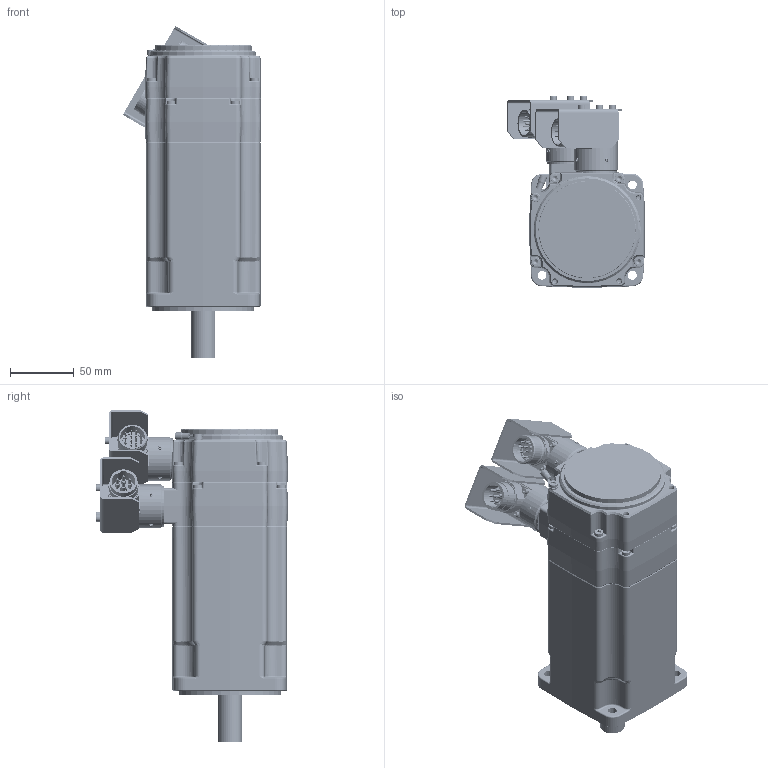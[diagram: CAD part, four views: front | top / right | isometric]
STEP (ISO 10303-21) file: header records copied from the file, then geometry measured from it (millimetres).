
FILE_DESCRIPTION((''),'2;1');
FILE_NAME('EY430EAR7010_ASM','2016-10-19T',('pf73167'),(''),'PRO/ENGINEER BY PARAMETRIC TECHNOLOGY CORPORATION, 2009400','PRO/ENGINEER BY PARAMETRIC TECHNOLOGY CORPORATION, 2009400','');
FILE_SCHEMA(('CONFIG_CONTROL_DESIGN'));
Length unit declared in the file: millimetre
Products named in the file (51): 344176P0027; 5116P1308; 1613P0123; 344174P0002; 344171P0002; 344212P0002; 344171P0002_ASM; 344175R0002_ASM; 5116P1315; 1711P0005; 1645P0017; 344170P0002; 344225R3000; 344561P0001; 344570P0002_ENROULE; 344228R3000_ASM; 344172P0010; 344173R3008_ASM; 5340P0069; 5320P0033; 1143P0415; 1613P0034; 1613P0035; 282280P0012; 220005P1002; 344509P0001; 1643P0104; 1143P0405; 344180P0018; 1143P0410; 1642P0104; 6620P0012; 1143P0408; 345359P0002; 5340P0124; 5340P0125; 1150P0204; 345359P0001; 1170P0042; 220132P1010_0001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
Assembly tree (127 placements, depth 4):
  EY430EAR7010_ASM
    344176P0027
    5116P1308
    1613P0123
    344175R0002_ASM
      344174P0002
      344171P0002_ASM
        344171P0002  x10
        344212P0002  x2
    5116P1315
    1711P0005
    1645P0017  x2
    344173R3008_ASM
      344228R3000_ASM
        344170P0002
        344225R3000  x6
        344561P0001  x2
        344570P0002_ENROULE  x2
      344172P0010
    5340P0069  x2
    5320P0033
    1143P0415  x4
    1613P0034
    1613P0035
    282280P0012
    220005P1002
    344509P0001
    1643P0104  x3
    1143P0405  x3
    344180P0018
    1143P0410  x4
    1642P0104
    6620P0012
    1143P0408
    345359R1010_ASM
      345359P0002
      5340P0124
      5340P0125
      1150P0204  x8
      345359P0001
      1170P0042  x4
      220132P1010_ASM
        220132P1010_0001
        220132P1010_0002
        220132P0111  x4
        220132P0120  x3
      345359P0003
      1150P0305  x3
    345359R1020_ASM
      345359P0002
      5340P0124
      5340P0125
      1150P0204  x8
      345359P0001
      1170P0042  x4
      220132P1020
      220132P0112  x12
      345359P0003
      1150P0305  x3
Bounding box: 108.48 x 150.2 x 260.04 mm (x, y, z)
Volume: 1202943.7 mm3; surface area: 453255.8 mm2
Topology: 125 solids, 126 shells, 6108 faces, 14383 edges, 8727 vertices
Faces by surface type: plane 2179, cylinder 1783, cone 938, bspline 751, torus 409, sphere 28, extrusion 20
Entity records: 141478 total; most frequent: CARTESIAN_POINT 48977, ORIENTED_EDGE 19364, DIRECTION 18547, EDGE_CURVE 9682, AXIS2_PLACEMENT_3D 6764, VERTEX_POINT 6036, VECTOR 5019, LINE 5017
